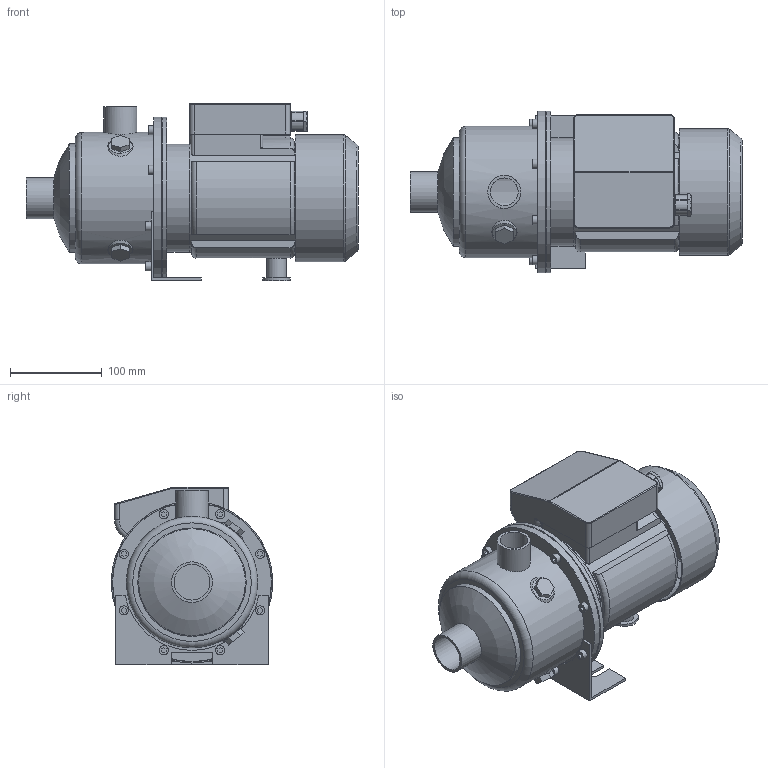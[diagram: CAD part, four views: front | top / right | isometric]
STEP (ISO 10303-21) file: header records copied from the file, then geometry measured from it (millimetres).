
FILE_DESCRIPTION(/* description */ ('Unknown'),/* implementation_level */ '2;1');
FILE_NAME(/* name */ 'MH 5 [2-3] M',/* time_stamp */ '2026-07-10T15:01:11+02:00',/* author */ ('Unknown'),/* organization */ ('Unknown'),/* preprocessor_version */ 'ST-DEVELOPER v20',/* originating_system */ 'Solid Edge',/* authorisation */ 'Unknown');
FILE_SCHEMA (('AUTOMOTIVE_DESIGN {1 0 10303 214 3 1 1}'));
Length unit declared in the file: millimetre
Products named in the file (10): MH 5 [2-3] M; Flangia motore Tonda M71; Corpo MH 3-5 [2-3]; Mot_Wendy_MEC71_055-075_M; carcassa MEC 71-M_Wendy; Copriventola MEC 71-Wendy; Basetta MEC 71 M-Wendy_new; 1; Piedino MEC 71 int.90; Staffa 3-5-9 int.90
Assembly tree (9 placements, depth 3):
  MH 5 [2-3] M
    Flangia motore Tonda M71
    Corpo MH 3-5 [2-3]
    Mot_Wendy_MEC71_055-075_M
      carcassa MEC 71-M_Wendy
      Copriventola MEC 71-Wendy
      Basetta MEC 71 M-Wendy_new
      1
    Piedino MEC 71 int.90
    Staffa 3-5-9 int.90
Bounding box: 362.5 x 176.5 x 193.5 mm (x, y, z)
Volume: 1707601.7 mm3; surface area: 484459.9 mm2
Topology: 8 solids, 8 shells, 287 faces, 674 edges, 445 vertices
Faces by surface type: plane 169, cylinder 81, torus 19, cone 14, sphere 2, bspline 2
Full cylindrical faces by diameter (mm): 7 x4, 10 x9, 12 x1, 15 x1, 16.5 x1, 21 x1, 30 x1, 30.291 x1, 36 x1, 38.952 x1, 44.5 x1, 110 x1, 114 x3, 116.1 x1, 118 x2, 118.5 x1, 136.5 x1, 138.5 x1, 141.1 x1, 143.5 x1, 173.5 x1, 174.1 x1, 176.5 x2
Entity records: 9252 total; most frequent: CARTESIAN_POINT 1708, DIRECTION 1328, ORIENTED_EDGE 1176, EDGE_CURVE 588, AXIS2_PLACEMENT_3D 491, VERTEX_POINT 415, EDGE_LOOP 395, FACE_BOUND 395
